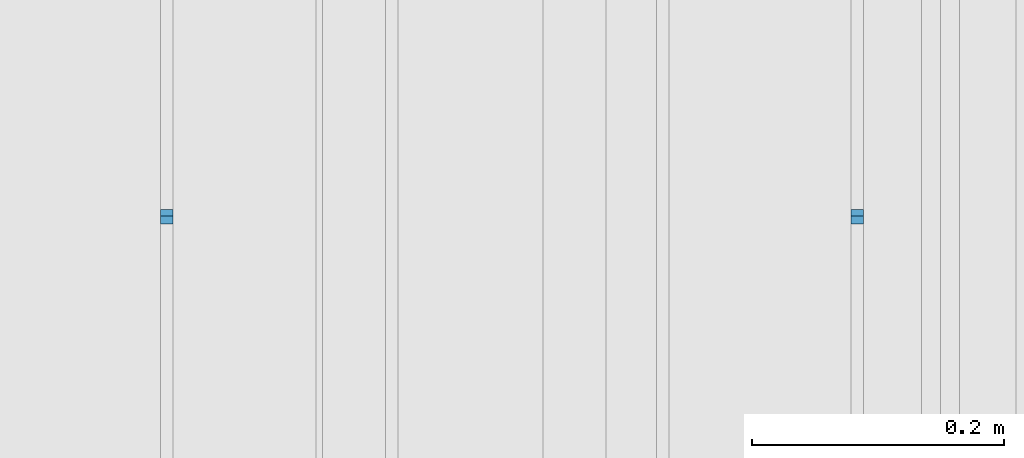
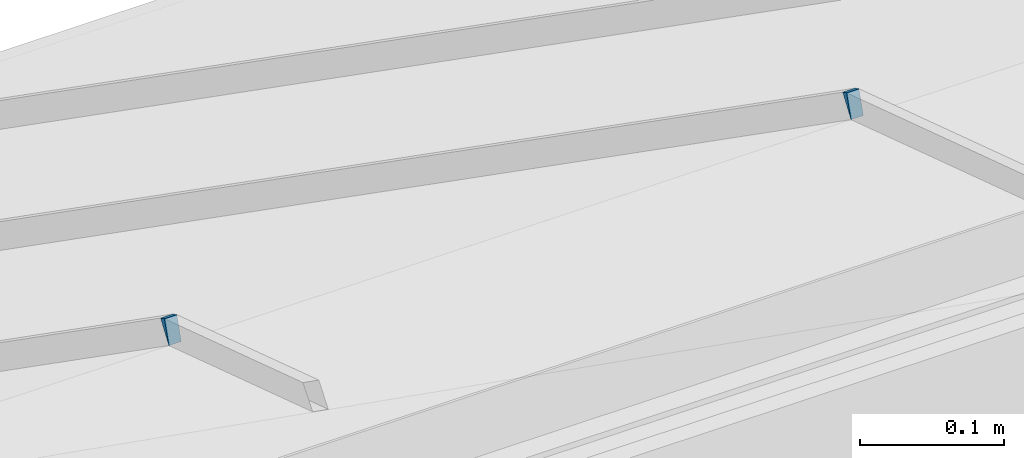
# One storey, part 343 of 583: 2 slabs.
"""IFC2X3 building model written with IfcOpenShell, lengths in metres."""

from ifc_helpers import new_model, entity, si_unit, converted_unit, derived_unit, money_unit, direction, frame, origin_with_axes, place, context, subcontext, project, spatial, faceted_brep, material, type_object, element, save


model = new_model("IFC2X3")

# Units and contexts
model_context = context("Model", 3, precision=1e-05, world=origin_with_axes(), true_north=direction((0.0, 1.0)))
body_context = subcontext(model_context, "Body", "Model", "MODEL_VIEW", scale=1.0)
ifc_project = project(units=[si_unit("LENGTHUNIT", "METRE"), si_unit("AREAUNIT", "SQUARE_METRE"), si_unit("VOLUMEUNIT", "CUBIC_METRE"), si_unit("ABSORBEDDOSEUNIT", "GRAY"), si_unit("AMOUNTOFSUBSTANCEUNIT", "MOLE"), si_unit("DOSEEQUIVALENTUNIT", "SIEVERT"), si_unit("ELECTRICCAPACITANCEUNIT", "FARAD"), si_unit("ELECTRICCHARGEUNIT", "COULOMB"), si_unit("ELECTRICCONDUCTANCEUNIT", "SIEMENS"), si_unit("ELECTRICCURRENTUNIT", "AMPERE"), si_unit("ELECTRICRESISTANCEUNIT", "OHM"), si_unit("ELECTRICVOLTAGEUNIT", "VOLT"), si_unit("ENERGYUNIT", "JOULE"), si_unit("FORCEUNIT", "NEWTON"), si_unit("FREQUENCYUNIT", "HERTZ"), si_unit("ILLUMINANCEUNIT", "LUX"), si_unit("INDUCTANCEUNIT", "HENRY"), si_unit("LUMINOUSFLUXUNIT", "LUMEN"), si_unit("LUMINOUSINTENSITYUNIT", "CANDELA"), si_unit("MAGNETICFLUXDENSITYUNIT", "TESLA"), si_unit("MAGNETICFLUXUNIT", "WEBER"), si_unit("MASSUNIT", "GRAM"), converted_unit("PLANEANGLEUNIT", "degree", entity("IfcReal", 0.0174532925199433), si_unit("PLANEANGLEUNIT", "RADIAN"), dimensions=[0, 0, 0, 0, 0, 0, 0]), si_unit("POWERUNIT", "WATT"), si_unit("PRESSUREUNIT", "PASCAL"), si_unit("RADIOACTIVITYUNIT", "BECQUEREL"), si_unit("SOLIDANGLEUNIT", "STERADIAN"), si_unit("THERMODYNAMICTEMPERATUREUNIT", "KELVIN"), si_unit("TIMEUNIT", "SECOND"), derived_unit("ACCELERATIONUNIT", [(si_unit("LENGTHUNIT", "METRE"), 1), (si_unit("TIMEUNIT", "SECOND"), -2)]), derived_unit("ANGULARVELOCITYUNIT", [(converted_unit("PLANEANGLEUNIT", "degree", entity("IfcReal", 0.0174532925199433), si_unit("PLANEANGLEUNIT", "RADIAN"), dimensions=[0, 0, 0, 0, 0, 0, 0]), 1), (si_unit("TIMEUNIT", "SECOND"), -1)]), derived_unit("CURVATUREUNIT", [(converted_unit("PLANEANGLEUNIT", "degree", entity("IfcReal", 0.0174532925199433), si_unit("PLANEANGLEUNIT", "RADIAN"), dimensions=[0, 0, 0, 0, 0, 0, 0]), 1), (si_unit("LENGTHUNIT", "METRE"), -1)]), derived_unit("DYNAMICVISCOSITYUNIT", [(si_unit("PRESSUREUNIT", "PASCAL"), 1), (si_unit("TIMEUNIT", "SECOND"), 1)]), derived_unit("HEATFLUXDENSITYUNIT", [(si_unit("POWERUNIT", "WATT"), 1), (si_unit("LENGTHUNIT", "METRE"), -2)]), derived_unit("HEATINGVALUEUNIT", [(si_unit("ENERGYUNIT", "JOULE"), 1), (si_unit("MASSUNIT", "GRAM"), -1)]), derived_unit("INTEGERCOUNTRATEUNIT", [(si_unit("TIMEUNIT", "SECOND"), -1)]), derived_unit("IONCONCENTRATIONUNIT", [(si_unit("MASSUNIT", "GRAM"), 1), (si_unit("VOLUMEUNIT", "CUBIC_METRE"), -1)]), derived_unit("ISOTHERMALMOISTURECAPACITYUNIT", [(si_unit("VOLUMEUNIT", "CUBIC_METRE"), 1), (si_unit("MASSUNIT", "GRAM"), -1)]), derived_unit("KINEMATICVISCOSITYUNIT", [(si_unit("AREAUNIT", "SQUARE_METRE"), 1), (si_unit("TIMEUNIT", "SECOND"), -1)]), derived_unit("LINEARFORCEUNIT", [(si_unit("FORCEUNIT", "NEWTON"), 1), (si_unit("LENGTHUNIT", "METRE"), -1)]), derived_unit("LINEARMOMENTUNIT", [(si_unit("FORCEUNIT", "NEWTON"), 1), (si_unit("LENGTHUNIT", "METRE"), -1)]), derived_unit("LINEARSTIFFNESSUNIT", [(si_unit("FORCEUNIT", "NEWTON"), 1), (si_unit("LENGTHUNIT", "METRE"), -1)]), derived_unit("LINEARVELOCITYUNIT", [(si_unit("LENGTHUNIT", "METRE"), 1), (si_unit("TIMEUNIT", "SECOND"), -1)]), derived_unit("LUMINOUSINTENSITYDISTRIBUTIONUNIT", [(si_unit("LUMINOUSINTENSITYUNIT", "CANDELA"), 1), (si_unit("LUMINOUSFLUXUNIT", "LUMEN"), -1)]), derived_unit("MASSDENSITYUNIT", [(si_unit("MASSUNIT", "GRAM"), 1), (si_unit("VOLUMEUNIT", "CUBIC_METRE"), -1)]), derived_unit("MASSFLOWRATEUNIT", [(si_unit("MASSUNIT", "GRAM"), 1), (si_unit("TIMEUNIT", "SECOND"), -1)]), derived_unit("MASSPERLENGTHUNIT", [(si_unit("MASSUNIT", "GRAM"), 1), (si_unit("LENGTHUNIT", "METRE"), -1)]), derived_unit("MODULUSOFELASTICITYUNIT", [(si_unit("FORCEUNIT", "NEWTON"), 1), (si_unit("AREAUNIT", "SQUARE_METRE"), -1)]), derived_unit("MODULUSOFLINEARSUBGRADEREACTIONUNIT", [(si_unit("FORCEUNIT", "NEWTON"), 1), (si_unit("LENGTHUNIT", "METRE"), -2)]), derived_unit("MODULUSOFROTATIONALSUBGRADEREACTIONUNIT", [(si_unit("FORCEUNIT", "NEWTON"), 1), (si_unit("LENGTHUNIT", "METRE"), 1)]), derived_unit("MODULUSOFSUBGRADEREACTIONUNIT", [(si_unit("FORCEUNIT", "NEWTON"), 1), (si_unit("VOLUMEUNIT", "CUBIC_METRE"), -1)]), derived_unit("MOISTUREDIFFUSIVITYUNIT", [(si_unit("VOLUMEUNIT", "CUBIC_METRE"), 1), (si_unit("TIMEUNIT", "SECOND"), -1)]), derived_unit("MOLECULARWEIGHTUNIT", [(si_unit("MASSUNIT", "GRAM"), 1), (si_unit("AMOUNTOFSUBSTANCEUNIT", "MOLE"), -1)]), derived_unit("PLANARFORCEUNIT", [(si_unit("FORCEUNIT", "NEWTON"), 1), (si_unit("LENGTHUNIT", "METRE"), -2)]), derived_unit("ROTATIONALFREQUENCYUNIT", [(si_unit("TIMEUNIT", "SECOND"), -1)]), derived_unit("ROTATIONALMASSUNIT", [(si_unit("MASSUNIT", "GRAM"), 1), (si_unit("LENGTHUNIT", "METRE"), 2)]), derived_unit("ROTATIONALSTIFFNESSUNIT", [(si_unit("FORCEUNIT", "NEWTON"), 1), (si_unit("LENGTHUNIT", "METRE"), 1), (converted_unit("PLANEANGLEUNIT", "degree", entity("IfcReal", 0.0174532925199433), si_unit("PLANEANGLEUNIT", "RADIAN"), dimensions=[0, 0, 0, 0, 0, 0, 0]), -1)]), derived_unit("SECTIONAREAINTEGRALUNIT", [(si_unit("LENGTHUNIT", "METRE"), 5)]), derived_unit("SECTIONMODULUSUNIT", [(si_unit("LENGTHUNIT", "METRE"), 3)]), derived_unit("SHEARMODULUSUNIT", [(si_unit("FORCEUNIT", "NEWTON"), 1), (si_unit("AREAUNIT", "SQUARE_METRE"), -1)]), derived_unit("SOUNDPOWERUNIT", [(si_unit("ENERGYUNIT", "JOULE"), 1), (si_unit("TIMEUNIT", "SECOND"), -1)]), derived_unit("SPECIFICHEATCAPACITYUNIT", [(si_unit("FORCEUNIT", "NEWTON"), 1), (si_unit("MASSUNIT", "GRAM"), -1), (si_unit("THERMODYNAMICTEMPERATUREUNIT", "KELVIN"), -1)]), derived_unit("TEMPERATUREGRADIENTUNIT", [(si_unit("THERMODYNAMICTEMPERATUREUNIT", "KELVIN"), 1), (si_unit("LENGTHUNIT", "METRE"), -1)]), derived_unit("THERMALADMITTANCEUNIT", [(si_unit("POWERUNIT", "WATT"), 1), (si_unit("AREAUNIT", "SQUARE_METRE"), -1), (si_unit("THERMODYNAMICTEMPERATUREUNIT", "KELVIN"), -1)]), derived_unit("THERMALCONDUCTANCEUNIT", [(si_unit("POWERUNIT", "WATT"), 1), (si_unit("LENGTHUNIT", "METRE"), -1), (si_unit("THERMODYNAMICTEMPERATUREUNIT", "KELVIN"), -1)]), derived_unit("THERMALEXPANSIONCOEFFICIENTUNIT", [(si_unit("THERMODYNAMICTEMPERATUREUNIT", "KELVIN"), -1)]), derived_unit("THERMALRESISTANCEUNIT", [(si_unit("AREAUNIT", "SQUARE_METRE"), 1), (si_unit("POWERUNIT", "WATT"), -1)]), derived_unit("THERMALTRANSMITTANCEUNIT", [(si_unit("POWERUNIT", "WATT"), 1), (si_unit("AREAUNIT", "SQUARE_METRE"), -1), (si_unit("THERMODYNAMICTEMPERATUREUNIT", "KELVIN"), -1)]), derived_unit("TORQUEUNIT", [(si_unit("FORCEUNIT", "NEWTON"), 1), (si_unit("LENGTHUNIT", "METRE"), 1)]), derived_unit("VAPORPERMEABILITYUNIT", [(si_unit("MASSUNIT", "GRAM"), 1), (si_unit("TIMEUNIT", "SECOND"), -1)]), derived_unit("VOLUMETRICFLOWRATEUNIT", [(si_unit("VOLUMEUNIT", "CUBIC_METRE"), 1), (si_unit("TIMEUNIT", "SECOND"), -1)]), derived_unit("WARPINGCONSTANTUNIT", [(si_unit("LENGTHUNIT", "METRE"), 6)]), derived_unit("WARPINGMOMENTUNIT", [(si_unit("FORCEUNIT", "NEWTON"), 1), (si_unit("LENGTHUNIT", "METRE"), 2)]), money_unit("GBP")], contexts=[model_context])

# Site, building, storey
site_placement = place(None, origin_with_axes())
site = spatial("IfcSite", under=ifc_project, at=site_placement, Name="Site", CompositionType="ELEMENT")
building_placement = place(site_placement, origin_with_axes())
building = spatial("IfcBuilding", under=site, at=building_placement, Name="Building01", CompositionType="ELEMENT")
storey_placement = place(building_placement, frame((0.0, 0.0, 20.78), z_axis=(0.0, 0.0, 1.0), x_axis=(1.0, 0.0, 0.0)))
storey = spatial("IfcBuildingStorey", under=building, at=storey_placement, Name="RL", CompositionType="ELEMENT", Elevation=20.78)

# Slabs
ifc_material = material(Name="A_BSUK_Roofs")
slab_type = type_object("IfcSlabType", Name="A-FloorsSlabs A_BSUK_Slabs", PredefinedType="FLOOR")
slab_1_placement = place(storey_placement, frame((3.086475, 18.791933, 4.882123), z_axis=(0.0, 1.0, 0.0), x_axis=(1.0, 0.0, 0.0)))
element("IfcSlab", 1, at=slab_1_placement, inside=storey, type_object=slab_type, material=ifc_material, Name="A-FloorsSlabs A_BSUK_Slabs", ObjectType="A-FloorsSlabs A_BSUK_Slabs", context=body_context, shape_type="Brep", body=[
    faceted_brep([(0.0, 0.0, 0.0), (-0.01, 0.0, 0.0), (-0.01, -0.002638, -0.005291), (0.0, -0.002638, -0.005291), (-0.01, 0.016383, -0.011472), (0.0, 0.016383, -0.011472)], [[[0, 1, 2, 3]], [[3, 2, 4, 5]], [[5, 4, 1, 0]], [[1, 4, 2]], [[3, 5, 0]]]),
])
slab_2_placement = place(storey_placement, frame((3.623975, 18.791933, 4.882123), z_axis=(0.0, 1.0, 0.0), x_axis=(1.0, 0.0, 0.0)))
element("IfcSlab", 2, at=slab_2_placement, inside=storey, type_object=slab_type, material=ifc_material, Name="A-FloorsSlabs A_BSUK_Slabs", ObjectType="A-FloorsSlabs A_BSUK_Slabs", context=body_context, shape_type="Brep", body=[
    faceted_brep([(0.0, -0.002638, -0.005291), (0.01, -0.002638, -0.005291), (0.01, 0.0, 0.0), (0.0, 0.0, 0.0), (0.0, 0.016383, -0.011472), (0.01, 0.016383, -0.011472)], [[[0, 1, 2, 3]], [[4, 5, 1, 0]], [[3, 2, 5, 4]], [[1, 5, 2]], [[3, 4, 0]]]),
])

save(model, "model.ifc")
